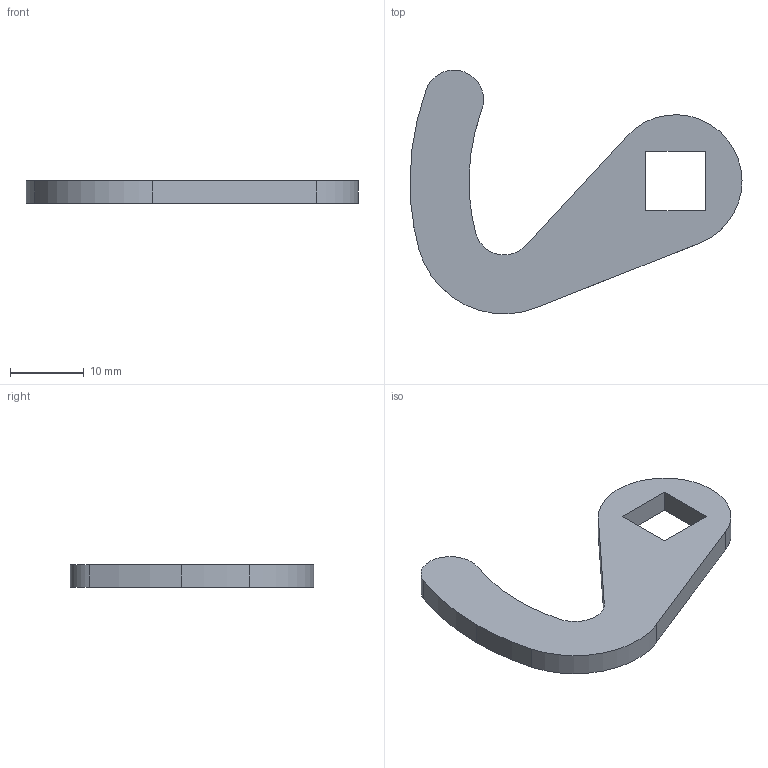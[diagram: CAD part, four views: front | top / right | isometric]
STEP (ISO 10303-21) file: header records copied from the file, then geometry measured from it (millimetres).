
FILE_DESCRIPTION (( 'STEP AP214' ), '1' );
FILE_NAME ('JK-10018.STEP', '2010-03-02T19:45:29', ( '£ukaszC' ), ( '' ), 'SwSTEP 2.0', 'SolidWorks 2008', '' );
FILE_SCHEMA (( 'AUTOMOTIVE_DESIGN' ));
Length unit declared in the file: millimetre
Products named in the file (1): JK-10018
Bounding box: 45 x 33.03 x 3 mm (x, y, z)
Volume: 1995.5 mm3; surface area: 1897 mm2
Topology: 1 solids, 1 shells, 16 faces, 42 edges, 28 vertices
Faces by surface type: cylinder 8, plane 8
Entity records: 529 total; most frequent: DIRECTION 92, CARTESIAN_POINT 87, ORIENTED_EDGE 84, EDGE_CURVE 42, AXIS2_PLACEMENT_3D 33, VERTEX_POINT 28, VECTOR 26, LINE 26
